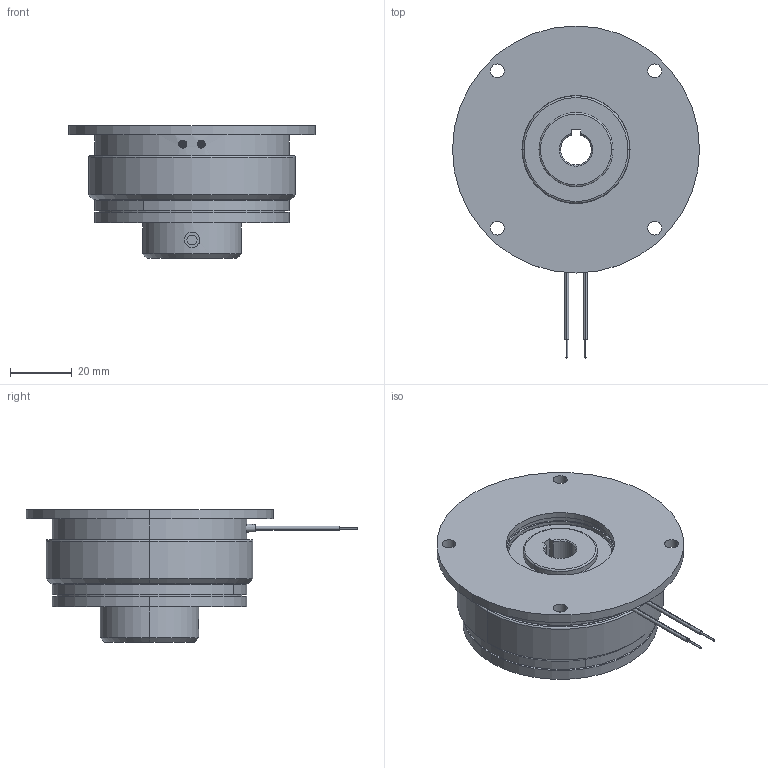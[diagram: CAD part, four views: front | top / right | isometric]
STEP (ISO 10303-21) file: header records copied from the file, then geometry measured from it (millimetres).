
FILE_DESCRIPTION (( 'STEP AP214' ), '1' );
FILE_NAME ('dr_bk_0603-130_mu.STEP', '2021-11-17T08:43:05', ( '' ), ( '' ), 'SwSTEP 2.0', 'SolidWorks 2019', '' );
FILE_SCHEMA (( 'AUTOMOTIVE_DESIGN' ));
Length unit declared in the file: millimetre
Products named in the file (12): dr_bk_0603-130_mu; 10068788_000; 10068786_000; 10069112_000; 10068785_000; 10068787_000; 10068794_000; 10068789_000_Nietl„nge 2,25mm; 10068793_000_M6x10 ISO 4026; 10068789_000_Einbaul„nge 2,7mm; 10069144_000; 10068792_000
Assembly tree (20 placements, depth 4):
  dr_bk_0603-130_mu
    10069112_000
    10069144_000
    10068792_000
      10068794_000
      10068787_000
        10068786_000
        10068785_000
        10068789_000_Nietl„nge 2,25mm  x3
        10068788_000  x3
      10068788_000  x3
      10068789_000_Einbaul„nge 2,7mm  x3
      10068793_000_M6x10 ISO 4026
Bounding box: 80 x 107.5 x 43 mm (x, y, z)
Volume: 103224.1 mm3; surface area: 47160.7 mm2
Topology: 20 solids, 20 shells, 367 faces, 812 edges, 492 vertices
Faces by surface type: cylinder 172, cone 94, plane 59, torus 30, sphere 12
Entity records: 9564 total; most frequent: CARTESIAN_POINT 1522, DIRECTION 1480, ORIENTED_EDGE 1168, AXIS2_PLACEMENT_3D 630, EDGE_CURVE 584, VERTEX_POINT 364, CIRCLE 344, EDGE_LOOP 342
